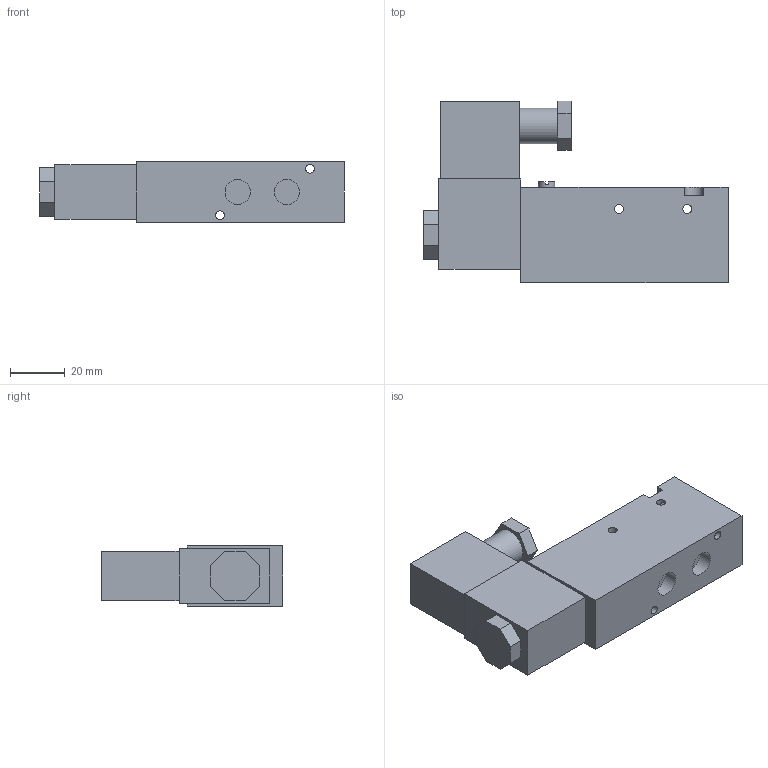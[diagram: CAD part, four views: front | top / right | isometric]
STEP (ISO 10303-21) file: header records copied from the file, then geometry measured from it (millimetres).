
FILE_DESCRIPTION(('STEP AP203'), '1');
FILE_NAME('3VM210-06-NC AC220V 砅槻斁譇厴謥麧錒蠈錪 DN.ru', '2026-04-20T16:50:46', ('R2D2'), (''), 'C3D Converter', 'C3D Toolkit', '');
FILE_SCHEMA(('CONFIG_CONTROL_DESIGN'));
Length unit declared in the file: millimetre
Products named in the file (1): 3VM210-06-NC AC220V
Bounding box: 111.5 x 66.5 x 22 mm (x, y, z)
Volume: 95539 mm3; surface area: 19059.7 mm2
Topology: 1 solids, 1 shells, 59 faces, 148 edges, 98 vertices
Faces by surface type: plane 48, cylinder 11
Full cylindrical faces by diameter (mm): 3.2 x2, 3.3 x2, 6 x1, 9.15 x3, 13 x1
Entity records: 2138 total; most frequent: CARTESIAN_POINT 455, DIRECTION 282, ORIENTED_EDGE 276, EDGE_CURVE 138, LINE 110, VECTOR 110, VERTEX_POINT 98, AXIS2_PLACEMENT_3D 86
